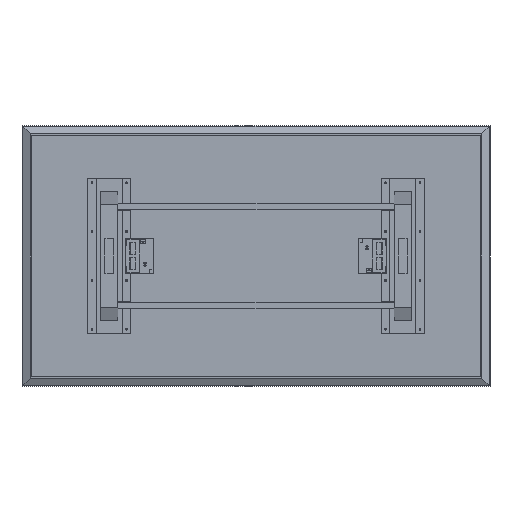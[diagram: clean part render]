
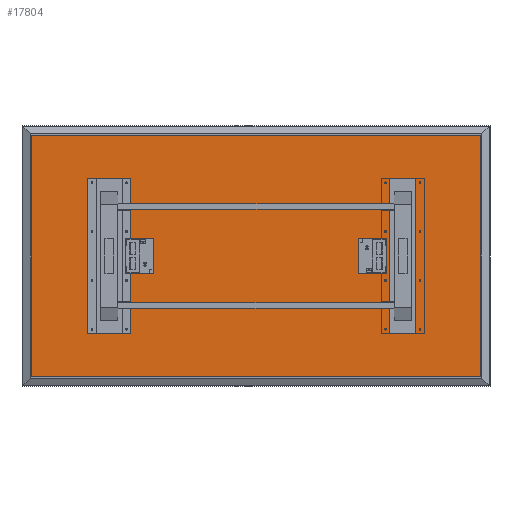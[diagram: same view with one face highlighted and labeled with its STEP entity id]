
A CAD part, front view. The second image highlights one B-rep face of the part: STEP entity #17804.
In plain terms, the highlighted planar face has unit normal (0, -1, 0).
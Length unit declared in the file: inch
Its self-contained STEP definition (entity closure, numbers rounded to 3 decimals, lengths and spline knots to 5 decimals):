
#2030=FACE_BOUND('',#3726,.T.);
#2031=FACE_BOUND('',#3727,.T.);
#2032=FACE_BOUND('',#3728,.T.);
#2033=FACE_BOUND('',#3729,.T.);
#2210=PLANE('',#19249);
#2820=FACE_OUTER_BOUND('',#3725,.T.);
#3725=EDGE_LOOP('',(#13072,#13073,#13074,#13075));
#3726=EDGE_LOOP('',(#13076,#13077,#13078,#13079));
#3727=EDGE_LOOP('',(#13080,#13081,#13082,#13083));
#3728=EDGE_LOOP('',(#13084,#13085,#13086,#13087));
#3729=EDGE_LOOP('',(#13088,#13089,#13090,#13091));
#4744=LINE('',#25838,#6564);
#4748=LINE('',#25846,#6568);
#4751=LINE('',#25852,#6571);
#4754=LINE('',#25857,#6574);
#4756=LINE('',#25863,#6576);
#4760=LINE('',#25871,#6580);
#4763=LINE('',#25877,#6583);
#4766=LINE('',#25882,#6586);
#4809=LINE('',#26003,#6629);
#4812=LINE('',#26008,#6632);
#4814=LINE('',#26013,#6634);
#4817=LINE('',#26018,#6637);
#4819=LINE('',#26022,#6639);
#4820=LINE('',#26024,#6640);
#4822=LINE('',#26028,#6642);
#4823=LINE('',#26030,#6643);
#4824=LINE('',#26034,#6644);
#4825=LINE('',#26036,#6645);
#4826=LINE('',#26038,#6646);
#4827=LINE('',#26039,#6647);
#6564=VECTOR('',#20917,0.3937);
#6568=VECTOR('',#20923,0.3937);
#6571=VECTOR('',#20928,0.3937);
#6574=VECTOR('',#20933,0.3937);
#6576=VECTOR('',#20939,0.3937);
#6580=VECTOR('',#20945,0.3937);
#6583=VECTOR('',#20950,0.3937);
#6586=VECTOR('',#20955,0.3937);
#6629=VECTOR('',#21070,0.3937);
#6632=VECTOR('',#21075,0.3937);
#6634=VECTOR('',#21079,0.3937);
#6637=VECTOR('',#21084,0.3937);
#6639=VECTOR('',#21088,0.3937);
#6640=VECTOR('',#21091,0.3937);
#6642=VECTOR('',#21095,0.3937);
#6643=VECTOR('',#21098,0.3937);
#6644=VECTOR('',#21101,0.3937);
#6645=VECTOR('',#21102,0.3937);
#6646=VECTOR('',#21103,0.3937);
#6647=VECTOR('',#21104,0.3937);
#8807=VERTEX_POINT('',#25836);
#8808=VERTEX_POINT('',#25837);
#8811=VERTEX_POINT('',#25845);
#8813=VERTEX_POINT('',#25851);
#8815=VERTEX_POINT('',#25861);
#8816=VERTEX_POINT('',#25862);
#8819=VERTEX_POINT('',#25870);
#8821=VERTEX_POINT('',#25876);
#8863=VERTEX_POINT('',#26000);
#8864=VERTEX_POINT('',#26002);
#8865=VERTEX_POINT('',#26006);
#8866=VERTEX_POINT('',#26010);
#8867=VERTEX_POINT('',#26012);
#8868=VERTEX_POINT('',#26016);
#8869=VERTEX_POINT('',#26020);
#8870=VERTEX_POINT('',#26026);
#8871=VERTEX_POINT('',#26032);
#8872=VERTEX_POINT('',#26033);
#8873=VERTEX_POINT('',#26035);
#8874=VERTEX_POINT('',#26037);
#10403=EDGE_CURVE('',#8807,#8808,#4744,.T.);
#10407=EDGE_CURVE('',#8811,#8807,#4748,.T.);
#10410=EDGE_CURVE('',#8813,#8811,#4751,.T.);
#10413=EDGE_CURVE('',#8808,#8813,#4754,.T.);
#10415=EDGE_CURVE('',#8815,#8816,#4756,.T.);
#10419=EDGE_CURVE('',#8819,#8815,#4760,.T.);
#10422=EDGE_CURVE('',#8821,#8819,#4763,.T.);
#10425=EDGE_CURVE('',#8816,#8821,#4766,.T.);
#10484=EDGE_CURVE('',#8864,#8863,#4809,.T.);
#10487=EDGE_CURVE('',#8863,#8865,#4812,.T.);
#10489=EDGE_CURVE('',#8867,#8866,#4814,.T.);
#10492=EDGE_CURVE('',#8866,#8868,#4817,.T.);
#10494=EDGE_CURVE('',#8865,#8869,#4819,.T.);
#10495=EDGE_CURVE('',#8869,#8864,#4820,.T.);
#10497=EDGE_CURVE('',#8868,#8870,#4822,.T.);
#10498=EDGE_CURVE('',#8870,#8867,#4823,.T.);
#10499=EDGE_CURVE('',#8871,#8872,#4824,.T.);
#10500=EDGE_CURVE('',#8872,#8873,#4825,.T.);
#10501=EDGE_CURVE('',#8873,#8874,#4826,.T.);
#10502=EDGE_CURVE('',#8874,#8871,#4827,.T.);
#13072=ORIENTED_EDGE('',*,*,#10499,.T.);
#13073=ORIENTED_EDGE('',*,*,#10500,.T.);
#13074=ORIENTED_EDGE('',*,*,#10501,.T.);
#13075=ORIENTED_EDGE('',*,*,#10502,.T.);
#13076=ORIENTED_EDGE('',*,*,#10403,.T.);
#13077=ORIENTED_EDGE('',*,*,#10413,.T.);
#13078=ORIENTED_EDGE('',*,*,#10410,.T.);
#13079=ORIENTED_EDGE('',*,*,#10407,.T.);
#13080=ORIENTED_EDGE('',*,*,#10415,.T.);
#13081=ORIENTED_EDGE('',*,*,#10425,.T.);
#13082=ORIENTED_EDGE('',*,*,#10422,.T.);
#13083=ORIENTED_EDGE('',*,*,#10419,.T.);
#13084=ORIENTED_EDGE('',*,*,#10494,.T.);
#13085=ORIENTED_EDGE('',*,*,#10495,.T.);
#13086=ORIENTED_EDGE('',*,*,#10484,.T.);
#13087=ORIENTED_EDGE('',*,*,#10487,.T.);
#13088=ORIENTED_EDGE('',*,*,#10497,.T.);
#13089=ORIENTED_EDGE('',*,*,#10498,.T.);
#13090=ORIENTED_EDGE('',*,*,#10489,.T.);
#13091=ORIENTED_EDGE('',*,*,#10492,.T.);
#17804=ADVANCED_FACE('',(#2820,#2030,#2031,#2032,#2033),#2210,.T.);
#19249=AXIS2_PLACEMENT_3D('',#26031,#21099,#21100);
#20917=DIRECTION('',(-1.,0.,0.));
#20923=DIRECTION('',(0.,0.,-1.));
#20928=DIRECTION('',(1.,0.,0.));
#20933=DIRECTION('',(0.,0.,1.));
#20939=DIRECTION('',(0.,0.,-1.));
#20945=DIRECTION('',(1.,0.,0.));
#20950=DIRECTION('',(0.,0.,1.));
#20955=DIRECTION('',(-1.,0.,0.));
#21070=DIRECTION('',(0.,0.,1.));
#21075=DIRECTION('',(1.,0.,0.));
#21079=DIRECTION('',(0.,0.,1.));
#21084=DIRECTION('',(1.,0.,0.));
#21088=DIRECTION('',(0.,0.,-1.));
#21091=DIRECTION('',(-1.,0.,0.));
#21095=DIRECTION('',(0.,0.,-1.));
#21098=DIRECTION('',(-1.,0.,0.));
#21099=DIRECTION('center_axis',(0.,-1.,0.));
#21100=DIRECTION('ref_axis',(0.,0.,-1.));
#21101=DIRECTION('',(0.,0.,1.));
#21102=DIRECTION('',(-1.,0.,0.));
#21103=DIRECTION('',(0.,0.,-1.));
#21104=DIRECTION('',(1.,0.,0.));
#25836=CARTESIAN_POINT('',(91.,-1.5,-48.));
#25837=CARTESIAN_POINT('',(85.,-1.5,-48.));
#25838=CARTESIAN_POINT('',(72.5,-1.5,-48.));
#25845=CARTESIAN_POINT('',(91.,-1.5,-12.));
#25846=CARTESIAN_POINT('',(91.,-1.5,-21.));
#25851=CARTESIAN_POINT('',(85.,-1.5,-12.));
#25852=CARTESIAN_POINT('',(69.5,-1.5,-12.));
#25857=CARTESIAN_POINT('',(85.,-1.5,-39.));
#25861=CARTESIAN_POINT('',(23.,-1.5,-12.));
#25862=CARTESIAN_POINT('',(23.,-1.5,-48.));
#25863=CARTESIAN_POINT('',(23.,-1.5,-21.));
#25870=CARTESIAN_POINT('',(17.,-1.5,-12.));
#25871=CARTESIAN_POINT('',(35.5,-1.5,-12.));
#25876=CARTESIAN_POINT('',(17.,-1.5,-48.));
#25877=CARTESIAN_POINT('',(17.,-1.5,-39.));
#25882=CARTESIAN_POINT('',(38.5,-1.5,-48.));
#26000=CARTESIAN_POINT('',(23.6875,-1.5,-25.90625));
#26002=CARTESIAN_POINT('',(23.6875,-1.5,-34.09375));
#26003=CARTESIAN_POINT('',(23.6875,-1.5,-27.95313));
#26006=CARTESIAN_POINT('',(30.3125,-1.5,-25.90625));
#26008=CARTESIAN_POINT('',(42.15625,-1.5,-25.90625));
#26010=CARTESIAN_POINT('',(77.6875,-1.5,-25.90625));
#26012=CARTESIAN_POINT('',(77.6875,-1.5,-34.09375));
#26013=CARTESIAN_POINT('',(77.6875,-1.5,-27.95313));
#26016=CARTESIAN_POINT('',(84.3125,-1.5,-25.90625));
#26018=CARTESIAN_POINT('',(69.15625,-1.5,-25.90625));
#26020=CARTESIAN_POINT('',(30.3125,-1.5,-34.09375));
#26022=CARTESIAN_POINT('',(30.3125,-1.5,-32.04688));
#26024=CARTESIAN_POINT('',(38.84375,-1.5,-34.09375));
#26026=CARTESIAN_POINT('',(84.3125,-1.5,-34.09375));
#26028=CARTESIAN_POINT('',(84.3125,-1.5,-32.04688));
#26030=CARTESIAN_POINT('',(65.84375,-1.5,-34.09375));
#26031=CARTESIAN_POINT('Origin',(54.,-1.5,-30.));
#26032=CARTESIAN_POINT('',(106.,-1.5,-58.));
#26033=CARTESIAN_POINT('',(106.,-1.5,-2.));
#26034=CARTESIAN_POINT('',(106.,-1.5,-58.));
#26035=CARTESIAN_POINT('',(2.,-1.5,-2.));
#26036=CARTESIAN_POINT('',(106.,-1.5,-2.));
#26037=CARTESIAN_POINT('',(2.,-1.5,-58.));
#26038=CARTESIAN_POINT('',(2.,-1.5,-2.));
#26039=CARTESIAN_POINT('',(2.,-1.5,-58.));
